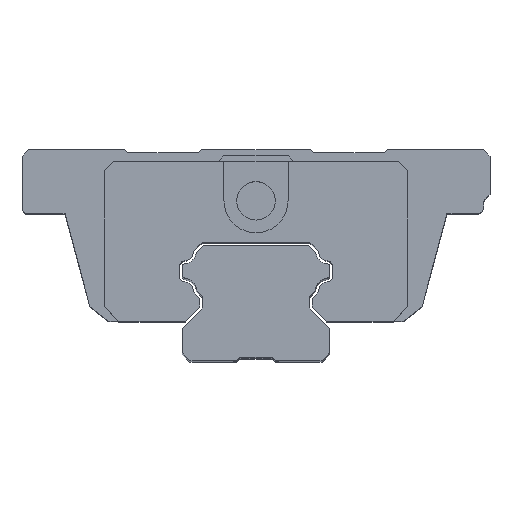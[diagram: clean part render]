
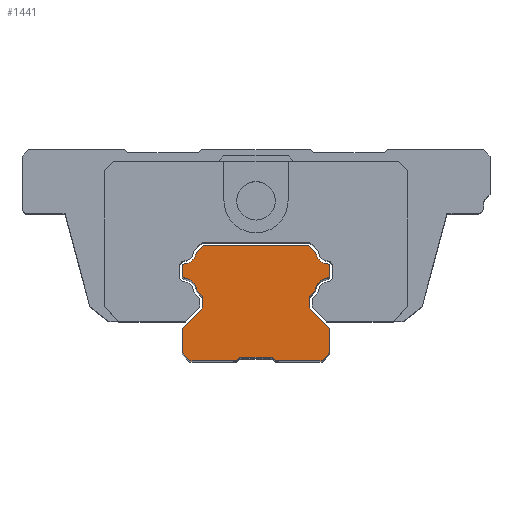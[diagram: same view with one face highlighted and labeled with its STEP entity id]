
A CAD part, top view. The second image highlights one B-rep face of the part: STEP entity #1441.
In plain terms, the highlighted planar face has unit normal (0, 0, 1).
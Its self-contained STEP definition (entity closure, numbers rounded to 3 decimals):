
#279=CARTESIAN_POINT('',(11.,-3.365,60.));
#280=DIRECTION('',(0.,0.,-1.));
#281=DIRECTION('',(0.12,0.993,0.));
#282=AXIS2_PLACEMENT_3D('',#279,#280,#281);
#284=DIRECTION('',(0.,-1.,0.));
#285=VECTOR('',#284,1.289);
#286=CARTESIAN_POINT('',(11.5,-3.365,60.));
#287=LINE('',#286,#285);
#288=CARTESIAN_POINT('',(11.,-4.654,60.));
#289=DIRECTION('',(0.,0.,-1.));
#290=DIRECTION('',(1.,0.,0.));
#291=AXIS2_PLACEMENT_3D('',#288,#289,#290);
#293=CARTESIAN_POINT('',(11.3,-7.136,60.));
#294=DIRECTION('',(0.,0.,1.));
#295=DIRECTION('',(-0.12,0.993,0.));
#296=AXIS2_PLACEMENT_3D('',#293,#294,#295);
#298=DIRECTION('',(-0.707,-0.707,0.));
#299=VECTOR('',#298,1.421);
#300=CARTESIAN_POINT('',(9.305,-6.995,60.));
#301=LINE('',#300,#299);
#302=DIRECTION('',(0.,-1.,0.));
#303=VECTOR('',#302,1.8);
#304=CARTESIAN_POINT('',(8.3,-8.,60.));
#305=LINE('',#304,#303);
#306=DIRECTION('',(0.707,-0.707,0.));
#307=VECTOR('',#306,4.525);
#308=CARTESIAN_POINT('',(8.3,-9.8,60.));
#309=LINE('',#308,#307);
#310=DIRECTION('',(0.,-1.,0.));
#311=VECTOR('',#310,3.8);
#312=CARTESIAN_POINT('',(11.5,-13.,60.));
#313=LINE('',#312,#311);
#314=DIRECTION('',(-0.707,-0.707,0.));
#315=VECTOR('',#314,1.697);
#316=CARTESIAN_POINT('',(11.5,-16.8,60.));
#317=LINE('',#316,#315);
#318=DIRECTION('',(-1.,0.,0.));
#319=VECTOR('',#318,7.3);
#320=CARTESIAN_POINT('',(10.3,-18.,60.));
#321=LINE('',#320,#319);
#322=DIRECTION('',(-0.707,0.707,0.));
#323=VECTOR('',#322,0.707);
#324=CARTESIAN_POINT('',(3.,-18.,60.));
#325=LINE('',#324,#323);
#326=DIRECTION('',(-1.,0.,0.));
#327=VECTOR('',#326,5.);
#328=CARTESIAN_POINT('',(2.5,-17.5,60.));
#329=LINE('',#328,#327);
#330=DIRECTION('',(-0.707,-0.707,0.));
#331=VECTOR('',#330,0.707);
#332=CARTESIAN_POINT('',(-2.5,-17.5,60.));
#333=LINE('',#332,#331);
#334=DIRECTION('',(-1.,0.,0.));
#335=VECTOR('',#334,7.3);
#336=CARTESIAN_POINT('',(-3.,-18.,60.));
#337=LINE('',#336,#335);
#338=DIRECTION('',(-0.707,0.707,0.));
#339=VECTOR('',#338,1.697);
#340=CARTESIAN_POINT('',(-10.3,-18.,60.));
#341=LINE('',#340,#339);
#342=DIRECTION('',(0.,1.,0.));
#343=VECTOR('',#342,3.8);
#344=CARTESIAN_POINT('',(-11.5,-16.8,60.));
#345=LINE('',#344,#343);
#346=DIRECTION('',(0.707,0.707,0.));
#347=VECTOR('',#346,4.525);
#348=CARTESIAN_POINT('',(-11.5,-13.,60.));
#349=LINE('',#348,#347);
#350=DIRECTION('',(0.,1.,0.));
#351=VECTOR('',#350,1.8);
#352=CARTESIAN_POINT('',(-8.3,-9.8,60.));
#353=LINE('',#352,#351);
#354=DIRECTION('',(-0.707,0.707,0.));
#355=VECTOR('',#354,1.421);
#356=CARTESIAN_POINT('',(-8.3,-8.,60.));
#357=LINE('',#356,#355);
#358=CARTESIAN_POINT('',(-11.3,-7.136,60.));
#359=DIRECTION('',(0.,0.,1.));
#360=DIRECTION('',(0.998,0.07,0.));
#361=AXIS2_PLACEMENT_3D('',#358,#359,#360);
#363=CARTESIAN_POINT('',(-11.,-4.654,60.));
#364=DIRECTION('',(0.,0.,-1.));
#365=DIRECTION('',(-0.12,-0.993,0.));
#366=AXIS2_PLACEMENT_3D('',#363,#364,#365);
#368=DIRECTION('',(0.,1.,0.));
#369=VECTOR('',#368,1.289);
#370=CARTESIAN_POINT('',(-11.5,-4.654,60.));
#371=LINE('',#370,#369);
#372=CARTESIAN_POINT('',(-11.,-3.365,60.));
#373=DIRECTION('',(0.,0.,-1.));
#374=DIRECTION('',(-1.,0.,0.));
#375=AXIS2_PLACEMENT_3D('',#372,#373,#374);
#377=CARTESIAN_POINT('',(-11.3,-0.883,60.));
#378=DIRECTION('',(0.,0.,1.));
#379=DIRECTION('',(0.12,-0.993,0.));
#380=AXIS2_PLACEMENT_3D('',#377,#378,#379);
#382=DIRECTION('',(0.707,0.707,0.));
#383=VECTOR('',#382,1.581);
#384=CARTESIAN_POINT('',(-9.314,-1.118,60.));
#385=LINE('',#384,#383);
#386=DIRECTION('',(1.,0.,0.));
#387=VECTOR('',#386,16.392);
#388=CARTESIAN_POINT('',(-8.196,0.,60.));
#389=LINE('',#388,#387);
#390=DIRECTION('',(0.707,-0.707,0.));
#391=VECTOR('',#390,1.581);
#392=CARTESIAN_POINT('',(8.196,0.,60.));
#393=LINE('',#392,#391);
#394=CARTESIAN_POINT('',(11.3,-0.883,60.));
#395=DIRECTION('',(0.,0.,1.));
#396=DIRECTION('',(-0.993,-0.118,0.));
#397=AXIS2_PLACEMENT_3D('',#394,#395,#396);
#754=CARTESIAN_POINT('',(-8.3,-9.8,60.));
#756=VERTEX_POINT('',#754);
#757=CARTESIAN_POINT('',(-11.5,-13.,60.));
#758=VERTEX_POINT('',#757);
#762=CARTESIAN_POINT('',(-8.3,-8.,60.));
#764=VERTEX_POINT('',#762);
#765=CARTESIAN_POINT('',(-9.305,-6.995,60.));
#767=VERTEX_POINT('',#765);
#773=CARTESIAN_POINT('',(-11.06,-5.15,60.));
#774=VERTEX_POINT('',#773);
#781=CARTESIAN_POINT('',(-11.5,-4.654,60.));
#782=VERTEX_POINT('',#781);
#789=CARTESIAN_POINT('',(-11.5,-3.365,60.));
#790=VERTEX_POINT('',#789);
#797=CARTESIAN_POINT('',(-11.06,-2.868,60.));
#798=VERTEX_POINT('',#797);
#802=CARTESIAN_POINT('',(-9.314,-1.118,60.));
#804=VERTEX_POINT('',#802);
#806=CARTESIAN_POINT('',(-8.196,0.,60.));
#808=VERTEX_POINT('',#806);
#810=CARTESIAN_POINT('',(8.196,0.,60.));
#812=VERTEX_POINT('',#810);
#825=CARTESIAN_POINT('',(9.314,-1.118,60.));
#827=VERTEX_POINT('',#825);
#833=CARTESIAN_POINT('',(11.06,-2.868,60.));
#834=VERTEX_POINT('',#833);
#841=CARTESIAN_POINT('',(11.5,-3.365,60.));
#842=VERTEX_POINT('',#841);
#849=CARTESIAN_POINT('',(11.5,-4.654,60.));
#850=VERTEX_POINT('',#849);
#857=CARTESIAN_POINT('',(11.06,-5.15,60.));
#858=VERTEX_POINT('',#857);
#862=CARTESIAN_POINT('',(9.305,-6.995,60.));
#864=VERTEX_POINT('',#862);
#866=CARTESIAN_POINT('',(8.3,-8.,60.));
#868=VERTEX_POINT('',#866);
#870=CARTESIAN_POINT('',(8.3,-9.8,60.));
#872=VERTEX_POINT('',#870);
#875=CARTESIAN_POINT('',(11.5,-13.,60.));
#876=VERTEX_POINT('',#875);
#893=CARTESIAN_POINT('',(-11.5,-16.8,60.));
#894=VERTEX_POINT('',#893);
#895=CARTESIAN_POINT('',(11.5,-16.8,60.));
#896=VERTEX_POINT('',#895);
#897=CARTESIAN_POINT('',(10.3,-18.,60.));
#898=VERTEX_POINT('',#897);
#899=CARTESIAN_POINT('',(3.,-18.,60.));
#900=VERTEX_POINT('',#899);
#901=CARTESIAN_POINT('',(2.5,-17.5,60.));
#902=VERTEX_POINT('',#901);
#903=CARTESIAN_POINT('',(-2.5,-17.5,60.));
#904=VERTEX_POINT('',#903);
#905=CARTESIAN_POINT('',(-3.,-18.,60.));
#906=VERTEX_POINT('',#905);
#907=CARTESIAN_POINT('',(-10.3,-18.,60.));
#908=VERTEX_POINT('',#907);
#1398=CARTESIAN_POINT('',(-36.5,15.,60.));
#1399=DIRECTION('',(0.,0.,1.));
#1400=DIRECTION('',(1.,0.,0.));
#1401=AXIS2_PLACEMENT_3D('',#1398,#1399,#1400);
#1402=PLANE('',#1401);
#1403=ORIENTED_EDGE('',*,*,#1223,.T.);
#1404=ORIENTED_EDGE('',*,*,#1244,.T.);
#1405=ORIENTED_EDGE('',*,*,#1265,.T.);
#1406=ORIENTED_EDGE('',*,*,#1284,.T.);
#1407=ORIENTED_EDGE('',*,*,#1301,.T.);
#1408=ORIENTED_EDGE('',*,*,#1316,.T.);
#1409=ORIENTED_EDGE('',*,*,#1334,.T.);
#1411=ORIENTED_EDGE('',*,*,#1410,.T.);
#1413=ORIENTED_EDGE('',*,*,#1412,.T.);
#1415=ORIENTED_EDGE('',*,*,#1414,.T.);
#1417=ORIENTED_EDGE('',*,*,#1416,.T.);
#1419=ORIENTED_EDGE('',*,*,#1418,.T.);
#1421=ORIENTED_EDGE('',*,*,#1420,.T.);
#1423=ORIENTED_EDGE('',*,*,#1422,.T.);
#1425=ORIENTED_EDGE('',*,*,#1424,.T.);
#1426=ORIENTED_EDGE('',*,*,#1391,.T.);
#1427=ORIENTED_EDGE('',*,*,#994,.T.);
#1428=ORIENTED_EDGE('',*,*,#1010,.T.);
#1429=ORIENTED_EDGE('',*,*,#1025,.T.);
#1430=ORIENTED_EDGE('',*,*,#1042,.T.);
#1431=ORIENTED_EDGE('',*,*,#1061,.T.);
#1432=ORIENTED_EDGE('',*,*,#1082,.T.);
#1433=ORIENTED_EDGE('',*,*,#1103,.T.);
#1434=ORIENTED_EDGE('',*,*,#1122,.T.);
#1435=ORIENTED_EDGE('',*,*,#1139,.T.);
#1436=ORIENTED_EDGE('',*,*,#1154,.T.);
#1437=ORIENTED_EDGE('',*,*,#1187,.T.);
#1438=ORIENTED_EDGE('',*,*,#1204,.T.);
#1439=EDGE_LOOP('',(#1403,#1404,#1405,#1406,#1407,#1408,#1409,#1411,#1413,#1415,
#1417,#1419,#1421,#1423,#1425,#1426,#1427,#1428,#1429,#1430,#1431,#1432,#1433,
#1434,#1435,#1436,#1437,#1438));
#1440=FACE_OUTER_BOUND('',#1439,.F.);
#1441=ADVANCED_FACE('',(#1440),#1402,.T.);
#283=CIRCLE('',#282,0.5);
#292=CIRCLE('',#291,0.5);
#297=CIRCLE('',#296,2.);
#362=CIRCLE('',#361,2.);
#367=CIRCLE('',#366,0.5);
#376=CIRCLE('',#375,0.5);
#381=CIRCLE('',#380,2.);
#398=CIRCLE('',#397,2.);
#994=EDGE_CURVE('',#758,#756,#349,.T.);
#1010=EDGE_CURVE('',#756,#764,#353,.T.);
#1025=EDGE_CURVE('',#764,#767,#357,.T.);
#1042=EDGE_CURVE('',#767,#774,#362,.T.);
#1061=EDGE_CURVE('',#774,#782,#367,.T.);
#1082=EDGE_CURVE('',#782,#790,#371,.T.);
#1103=EDGE_CURVE('',#790,#798,#376,.T.);
#1122=EDGE_CURVE('',#798,#804,#381,.T.);
#1139=EDGE_CURVE('',#804,#808,#385,.T.);
#1154=EDGE_CURVE('',#808,#812,#389,.T.);
#1187=EDGE_CURVE('',#812,#827,#393,.T.);
#1204=EDGE_CURVE('',#827,#834,#398,.T.);
#1223=EDGE_CURVE('',#834,#842,#283,.T.);
#1244=EDGE_CURVE('',#842,#850,#287,.T.);
#1265=EDGE_CURVE('',#850,#858,#292,.T.);
#1284=EDGE_CURVE('',#858,#864,#297,.T.);
#1301=EDGE_CURVE('',#864,#868,#301,.T.);
#1316=EDGE_CURVE('',#868,#872,#305,.T.);
#1334=EDGE_CURVE('',#872,#876,#309,.T.);
#1391=EDGE_CURVE('',#894,#758,#345,.T.);
#1410=EDGE_CURVE('',#876,#896,#313,.T.);
#1412=EDGE_CURVE('',#896,#898,#317,.T.);
#1414=EDGE_CURVE('',#898,#900,#321,.T.);
#1416=EDGE_CURVE('',#900,#902,#325,.T.);
#1418=EDGE_CURVE('',#902,#904,#329,.T.);
#1420=EDGE_CURVE('',#904,#906,#333,.T.);
#1422=EDGE_CURVE('',#906,#908,#337,.T.);
#1424=EDGE_CURVE('',#908,#894,#341,.T.);
